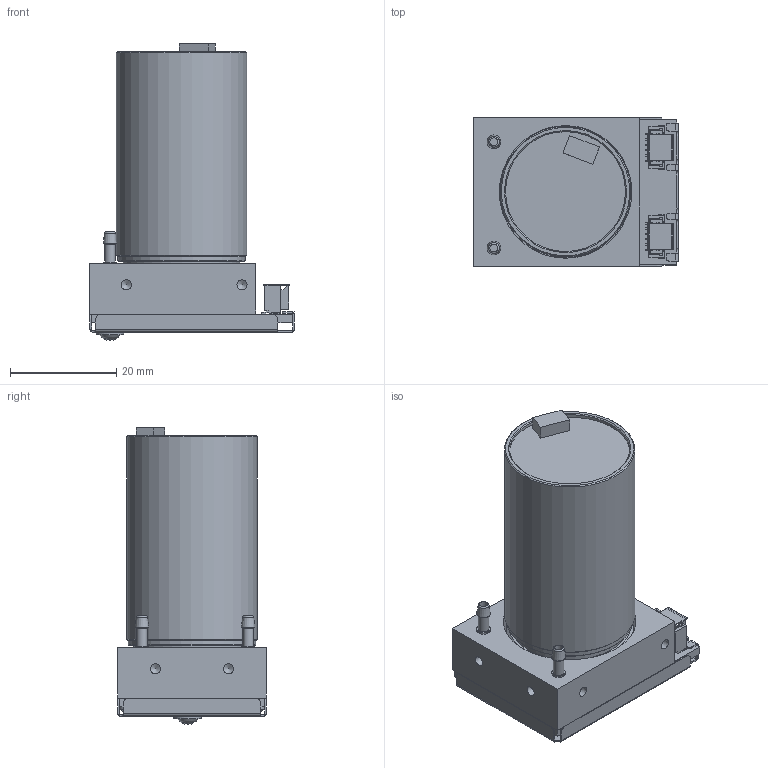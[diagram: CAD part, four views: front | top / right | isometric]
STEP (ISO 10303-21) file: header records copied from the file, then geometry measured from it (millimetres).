
FILE_DESCRIPTION(/* description */ ('Unknown'),/* implementation_level */ '2;1');
FILE_NAME(/* name */ 'PIM.CPN. Complete Schematic.0.00',/* time_stamp */ '2020-04-20T21:14:39+02:00',/* author */ ('Micha'),/* organization */ ('Unknown'),/* preprocessor_version */ 'ST-DEVELOPER v16.7',/* originating_system */ 'DEX',/* authorisation */ $);
FILE_SCHEMA (('AUTOMOTIVE_DESIGN {1 0 10303 214 3 1 1}'));
Length unit declared in the file: millimetre
Products named in the file (6): PIM.CPN. Complete Schematic.0.00; PIM.CPN.Sensor Unit Schematic.0.00; PIM.CPN.Lamp Unit  massiv .BGR00211.4.04; mCPX.Lamp ring 24 massiv.EZT00435.3.04; mCPX.Lampenhülse 24 massiv.EZT00434.6.06; PIM.CPN.Frontisolation Schematic.0.00
Assembly tree (5 placements, depth 3):
  PIM.CPN. Complete Schematic.0.00
    PIM.CPN.Sensor Unit Schematic.0.00
    PIM.CPN.Lamp Unit  massiv .BGR00211.4.04
      mCPX.Lamp ring 24 massiv.EZT00435.3.04
      mCPX.Lampenhülse 24 massiv.EZT00434.6.06
    PIM.CPN.Frontisolation Schematic.0.00
Bounding box: 38.55 x 28 x 55.81 mm (x, y, z)
Volume: 28576.6 mm3; surface area: 15003.2 mm2
Topology: 6 solids, 15 shells, 865 faces, 2289 edges, 1492 vertices
Faces by surface type: plane 686, cylinder 114, cone 50, torus 10, sphere 5
Full cylindrical faces by diameter (mm): 0.7 x8, 1.016 x3, 1.5 x3, 1.9 x13, 2 x2, 2.2 x5, 2.3 x5, 2.571 x2, 3.8 x2, 5.2 x1, 20.6 x1, 22 x3, 22.1 x1, 22.5 x1, 22.6 x2, 24 x2, 24.6 x1, 25 x1
Entity records: 31599 total; most frequent: CARTESIAN_POINT 4468, ORIENTED_EDGE 4268, DIRECTION 4232, EDGE_CURVE 2134, LINE 1776, VECTOR 1776, VERTEX_POINT 1453, AXIS2_PLACEMENT_3D 1228
